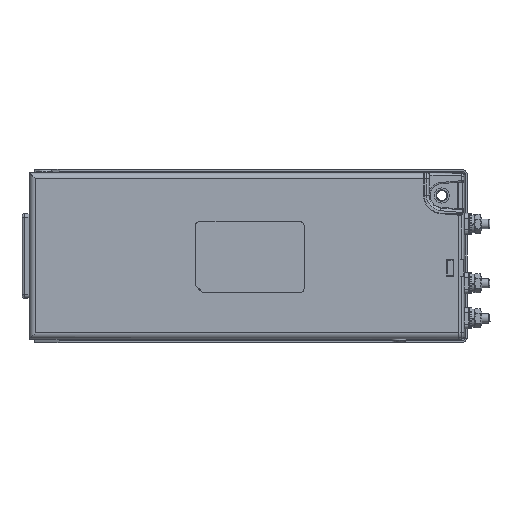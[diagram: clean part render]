
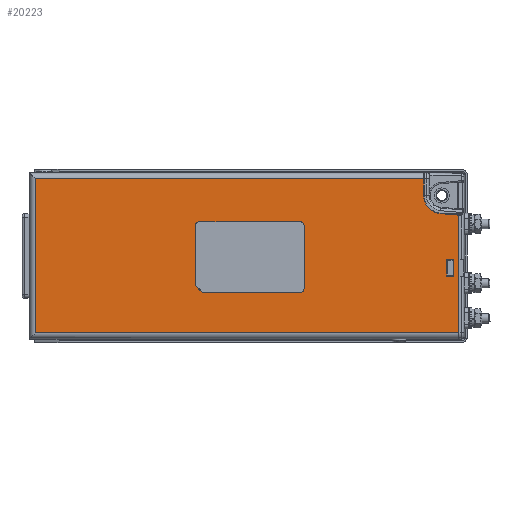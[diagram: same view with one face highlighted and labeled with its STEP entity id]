
A CAD part, top view. The second image highlights one B-rep face of the part: STEP entity #20223.
In plain terms, the highlighted planar face has unit normal (0, 0, 1).
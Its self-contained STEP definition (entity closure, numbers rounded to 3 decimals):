
#386=FACE_BOUND('',#2215,.T.);
#387=FACE_BOUND('',#2216,.T.);
#489=PLANE('',#21404);
#1077=FACE_OUTER_BOUND('',#2214,.T.);
#2214=EDGE_LOOP('',(#12912,#12913,#12914,#12915,#12916,#12917,#12918,#12919));
#2215=EDGE_LOOP('',(#12920,#12921,#12922,#12923));
#2216=EDGE_LOOP('',(#12924,#12925,#12926,#12927,#12928,#12929,#12930,#12931,
#12932,#12933));
#3749=CIRCLE('',#21391,2.);
#3751=CIRCLE('',#21395,2.);
#3753=CIRCLE('',#21399,2.);
#3754=CIRCLE('',#21405,7.7);
#4423=LINE('',#29355,#6246);
#4427=LINE('',#29367,#6250);
#4431=LINE('',#29378,#6254);
#4435=LINE('',#29386,#6258);
#4438=LINE('',#29390,#6261);
#4439=LINE('',#29395,#6262);
#4440=LINE('',#29397,#6263);
#4441=LINE('',#29399,#6264);
#4442=LINE('',#29401,#6265);
#4443=LINE('',#29403,#6266);
#4444=LINE('',#29407,#6267);
#4445=LINE('',#29408,#6268);
#4446=LINE('',#29411,#6269);
#4447=LINE('',#29413,#6270);
#4448=LINE('',#29415,#6271);
#4449=LINE('',#29416,#6272);
#4450=LINE('',#29417,#6273);
#4451=LINE('',#29418,#6274);
#6246=VECTOR('',#23467,10.);
#6250=VECTOR('',#23479,10.);
#6254=VECTOR('',#23491,10.);
#6258=VECTOR('',#23497,10.);
#6261=VECTOR('',#23502,10.);
#6262=VECTOR('',#23507,10.);
#6263=VECTOR('',#23508,10.);
#6264=VECTOR('',#23509,10.);
#6265=VECTOR('',#23510,10.);
#6266=VECTOR('',#23511,10.);
#6267=VECTOR('',#23514,10.);
#6268=VECTOR('',#23515,10.);
#6269=VECTOR('',#23516,10.);
#6270=VECTOR('',#23517,10.);
#6271=VECTOR('',#23518,10.);
#6272=VECTOR('',#23519,10.);
#6273=VECTOR('',#23520,10.);
#6274=VECTOR('',#23521,10.);
#8079=VERTEX_POINT('',#29332);
#8083=VERTEX_POINT('',#29339);
#8084=VERTEX_POINT('',#29341);
#8087=VERTEX_POINT('',#29348);
#8088=VERTEX_POINT('',#29350);
#8089=VERTEX_POINT('',#29354);
#8092=VERTEX_POINT('',#29362);
#8093=VERTEX_POINT('',#29366);
#8096=VERTEX_POINT('',#29374);
#8099=VERTEX_POINT('',#29385);
#8100=VERTEX_POINT('',#29393);
#8101=VERTEX_POINT('',#29394);
#8102=VERTEX_POINT('',#29396);
#8103=VERTEX_POINT('',#29398);
#8104=VERTEX_POINT('',#29400);
#8105=VERTEX_POINT('',#29402);
#8106=VERTEX_POINT('',#29404);
#8107=VERTEX_POINT('',#29406);
#8108=VERTEX_POINT('',#29409);
#8109=VERTEX_POINT('',#29410);
#8110=VERTEX_POINT('',#29412);
#8111=VERTEX_POINT('',#29414);
#9924=EDGE_CURVE('',#8088,#8087,#3749,.T.);
#9926=EDGE_CURVE('',#8089,#8088,#4423,.T.);
#9930=EDGE_CURVE('',#8092,#8089,#3751,.T.);
#9932=EDGE_CURVE('',#8093,#8092,#4427,.T.);
#9936=EDGE_CURVE('',#8096,#8093,#3753,.T.);
#9938=EDGE_CURVE('',#8079,#8096,#4431,.T.);
#9942=EDGE_CURVE('',#8099,#8083,#4435,.T.);
#9945=EDGE_CURVE('',#8087,#8099,#4438,.T.);
#9946=EDGE_CURVE('',#8100,#8101,#4439,.T.);
#9947=EDGE_CURVE('',#8101,#8102,#4440,.T.);
#9948=EDGE_CURVE('',#8103,#8102,#4441,.T.);
#9949=EDGE_CURVE('',#8104,#8103,#4442,.T.);
#9950=EDGE_CURVE('',#8104,#8105,#4443,.T.);
#9951=EDGE_CURVE('',#8105,#8106,#3754,.T.);
#9952=EDGE_CURVE('',#8106,#8107,#4444,.T.);
#9953=EDGE_CURVE('',#8107,#8100,#4445,.T.);
#9954=EDGE_CURVE('',#8108,#8109,#4446,.T.);
#9955=EDGE_CURVE('',#8109,#8110,#4447,.T.);
#9956=EDGE_CURVE('',#8110,#8111,#4448,.T.);
#9957=EDGE_CURVE('',#8111,#8108,#4449,.T.);
#9958=EDGE_CURVE('',#8083,#8084,#4450,.T.);
#9959=EDGE_CURVE('',#8084,#8079,#4451,.T.);
#12912=ORIENTED_EDGE('',*,*,#9946,.T.);
#12913=ORIENTED_EDGE('',*,*,#9947,.T.);
#12914=ORIENTED_EDGE('',*,*,#9948,.F.);
#12915=ORIENTED_EDGE('',*,*,#9949,.F.);
#12916=ORIENTED_EDGE('',*,*,#9950,.T.);
#12917=ORIENTED_EDGE('',*,*,#9951,.T.);
#12918=ORIENTED_EDGE('',*,*,#9952,.T.);
#12919=ORIENTED_EDGE('',*,*,#9953,.T.);
#12920=ORIENTED_EDGE('',*,*,#9954,.T.);
#12921=ORIENTED_EDGE('',*,*,#9955,.T.);
#12922=ORIENTED_EDGE('',*,*,#9956,.T.);
#12923=ORIENTED_EDGE('',*,*,#9957,.T.);
#12924=ORIENTED_EDGE('',*,*,#9938,.T.);
#12925=ORIENTED_EDGE('',*,*,#9936,.T.);
#12926=ORIENTED_EDGE('',*,*,#9932,.T.);
#12927=ORIENTED_EDGE('',*,*,#9930,.T.);
#12928=ORIENTED_EDGE('',*,*,#9926,.T.);
#12929=ORIENTED_EDGE('',*,*,#9924,.T.);
#12930=ORIENTED_EDGE('',*,*,#9945,.T.);
#12931=ORIENTED_EDGE('',*,*,#9942,.T.);
#12932=ORIENTED_EDGE('',*,*,#9958,.T.);
#12933=ORIENTED_EDGE('',*,*,#9959,.T.);
#20223=ADVANCED_FACE('',(#1077,#386,#387),#489,.T.);
#21391=AXIS2_PLACEMENT_3D('',#29351,#23462,#23463);
#21395=AXIS2_PLACEMENT_3D('',#29363,#23474,#23475);
#21399=AXIS2_PLACEMENT_3D('',#29375,#23486,#23487);
#21404=AXIS2_PLACEMENT_3D('',#29392,#23505,#23506);
#21405=AXIS2_PLACEMENT_3D('',#29405,#23512,#23513);
#23462=DIRECTION('center_axis',(0.,0.,
-1.));
#23463=DIRECTION('ref_axis',(0.707,-0.707,0.));
#23467=DIRECTION('',(0.,-1.,0.));
#23474=DIRECTION('center_axis',(0.,0.,
-1.));
#23475=DIRECTION('ref_axis',(0.707,0.707,0.));
#23479=DIRECTION('',(1.,0.,0.));
#23486=DIRECTION('center_axis',(0.,0.,
-1.));
#23487=DIRECTION('ref_axis',(-0.707,0.707,0.));
#23491=DIRECTION('',(0.,1.,0.));
#23497=DIRECTION('',(-0.707,0.707,0.));
#23502=DIRECTION('',(-1.,0.,0.));
#23505=DIRECTION('center_axis',(0.,0.,
1.));
#23506=DIRECTION('ref_axis',(0.,-1.,0.));
#23507=DIRECTION('',(0.,-1.,0.));
#23508=DIRECTION('',(1.,0.,0.));
#23509=DIRECTION('',(0.,-1.,0.));
#23510=DIRECTION('',(0.676,-0.737,0.));
#23511=DIRECTION('',(-0.996,0.087,0.));
#23512=DIRECTION('center_axis',(0.,0.,
-1.));
#23513=DIRECTION('ref_axis',(-1.,0.,0.));
#23514=DIRECTION('',(0.,1.,0.));
#23515=DIRECTION('',(-1.,0.,0.));
#23516=DIRECTION('',(-1.,0.,0.));
#23517=DIRECTION('',(0.,1.,0.));
#23518=DIRECTION('',(1.,0.,0.));
#23519=DIRECTION('',(0.,-1.,0.));
#23520=DIRECTION('',(-0.707,0.707,0.));
#23521=DIRECTION('',(0.,1.,0.));
#29332=CARTESIAN_POINT('',(-20.,-9.025,34.9));
#29339=CARTESIAN_POINT('',(-17.525,-15.,34.9));
#29341=CARTESIAN_POINT('',(-20.,-12.525,34.9));
#29348=CARTESIAN_POINT('',(24.,-15.525,34.9));
#29350=CARTESIAN_POINT('',(26.,-13.525,34.9));
#29351=CARTESIAN_POINT('Origin',(24.,-13.525,34.9));
#29354=CARTESIAN_POINT('',(26.,12.475,34.9));
#29355=CARTESIAN_POINT('',(26.,7.237,34.9));
#29362=CARTESIAN_POINT('',(24.,14.475,34.9));
#29363=CARTESIAN_POINT('Origin',(24.,12.475,34.9));
#29366=CARTESIAN_POINT('',(-18.,14.475,34.9));
#29367=CARTESIAN_POINT('',(-9.75,14.475,34.9));
#29374=CARTESIAN_POINT('',(-20.,12.475,34.9));
#29375=CARTESIAN_POINT('Origin',(-18.,12.475,34.9));
#29378=CARTESIAN_POINT('',(-20.,-7.763,34.9));
#29385=CARTESIAN_POINT('',(-17.,-15.525,34.9));
#29386=CARTESIAN_POINT('',(-17.256,-15.269,34.9));
#29390=CARTESIAN_POINT('',(13.25,-15.525,34.9));
#29392=CARTESIAN_POINT('Origin',(0.5,0.,
34.9));
#29393=CARTESIAN_POINT('',(-87.5,32.5,34.9));
#29394=CARTESIAN_POINT('',(-87.5,-32.5,34.9));
#29395=CARTESIAN_POINT('',(-87.5,-16.25,34.9));
#29396=CARTESIAN_POINT('',(91.,-32.5,34.9));
#29397=CARTESIAN_POINT('',(-44.75,-32.5,34.9));
#29398=CARTESIAN_POINT('',(91.,16.658,34.9));
#29399=CARTESIAN_POINT('',(91.,35.,34.9));
#29400=CARTESIAN_POINT('',(90.502,17.202,34.9));
#29401=CARTESIAN_POINT('',(74.371,34.805,34.9));
#29402=CARTESIAN_POINT('',(83.329,17.829,34.9));
#29403=CARTESIAN_POINT('',(46.839,21.022,34.9));
#29404=CARTESIAN_POINT('',(76.3,25.5,34.9));
#29405=CARTESIAN_POINT('Origin',(84.,25.5,34.9));
#29406=CARTESIAN_POINT('',(76.3,32.5,34.9));
#29407=CARTESIAN_POINT('',(76.3,12.75,34.9));
#29408=CARTESIAN_POINT('',(45.75,32.5,34.9));
#29409=CARTESIAN_POINT('',(89.,-8.5,34.9));
#29410=CARTESIAN_POINT('',(86.,-8.5,34.9));
#29411=CARTESIAN_POINT('',(44.75,-8.5,34.9));
#29412=CARTESIAN_POINT('',(86.,-1.5,34.9));
#29413=CARTESIAN_POINT('',(86.,-4.25,34.9));
#29414=CARTESIAN_POINT('',(89.,-1.5,34.9));
#29415=CARTESIAN_POINT('',(43.25,-1.5,34.9));
#29416=CARTESIAN_POINT('',(89.,-0.75,34.9));
#29417=CARTESIAN_POINT('',(-16.769,-15.756,34.9));
#29418=CARTESIAN_POINT('',(-20.,-6.263,34.9));
